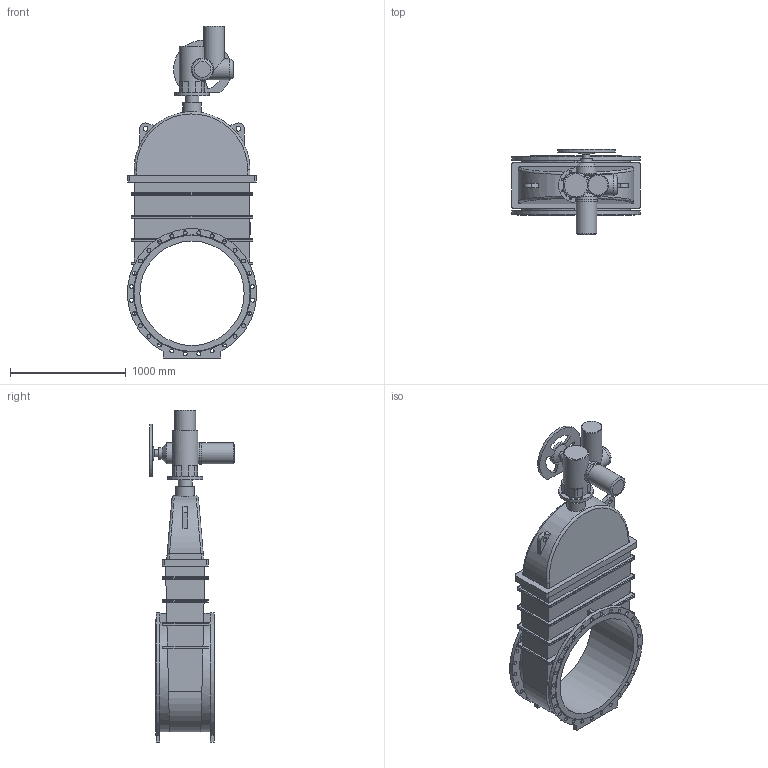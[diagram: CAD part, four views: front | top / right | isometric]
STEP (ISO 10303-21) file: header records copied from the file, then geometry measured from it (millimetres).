
FILE_DESCRIPTION(('STEP AP203'), '1');
FILE_NAME('青溻桄赅 47GVA.Z DN900 PN10 +MT903.A80', '', ('UNSPECIFIED'), ('UNSPECIFIED'), 'ASCON STEP Converter 1.6', 'ASCON Math Kernel', '');
FILE_SCHEMA(('CONFIG_CONTROL_DESIGN'));
Length unit declared in the file: millimetre
Bounding box: 1112.29 x 733 x 2863.5 mm (x, y, z)
Volume: 471194383 mm3; surface area: 9779096.8 mm2
Topology: 2 solids, 2 shells, 384 faces, 977 edges, 624 vertices
Faces by surface type: cylinder 187, plane 147, bspline 38, cone 11, torus 1
Full cylindrical faces by diameter (mm): 17.5 x4, 18 x8, 20 x4, 34 x56, 40 x2, 50 x1, 60 x1, 100 x1, 120 x1, 130 x1, 140 x1, 160 x1, 180 x4, 187 x1, 191 x1, 200 x1, 220 x1, 300 x1, 900 x1
Entity records: 19454 total; most frequent: CARTESIAN_POINT 7384, DIRECTION 1761, ORIENTED_EDGE 1748, EDGE_CURVE 874, AXIS2_PLACEMENT_3D 681, EDGE_LOOP 661, VERTEX_POINT 623, FACE_BOUND 467
